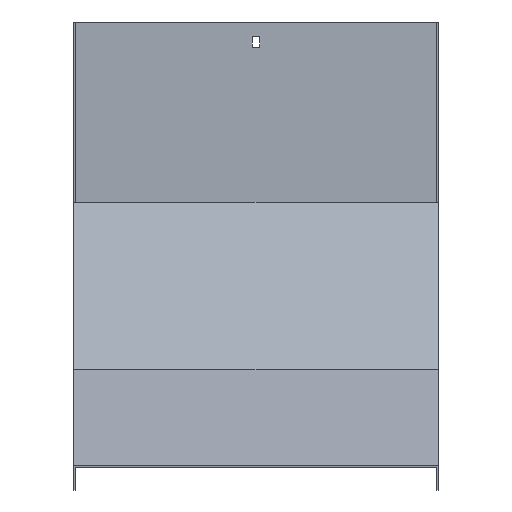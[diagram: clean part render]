
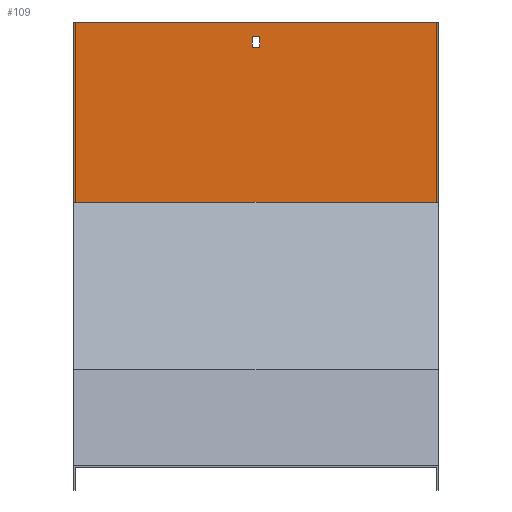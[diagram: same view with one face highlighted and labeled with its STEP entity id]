
A CAD part, top view. The second image highlights one B-rep face of the part: STEP entity #109.
In plain terms, the highlighted planar face has unit normal (0, 0, 1).
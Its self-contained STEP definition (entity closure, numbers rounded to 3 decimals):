
#5 = DIRECTION ( 'NONE',  ( 0., 1., 0. ) ) ;
#17 = DIRECTION ( 'NONE',  ( -1., 0., 0. ) ) ;
#22 = CARTESIAN_POINT ( 'NONE',  ( -3.25, 356.947, -368.947 ) ) ;
#24 = ORIENTED_EDGE ( 'NONE', *, *, #254, .T. ) ;
#30 = CARTESIAN_POINT ( 'NONE',  ( 151.5, 219.247, -368.947 ) ) ;
#48 = CARTESIAN_POINT ( 'NONE',  ( 3.25, 347.947, -368.947 ) ) ;
#52 = EDGE_CURVE ( 'NONE', #804, #163, #872, .T. ) ;
#77 = CARTESIAN_POINT ( 'NONE',  ( -3.25, 347.947, -368.947 ) ) ;
#92 = AXIS2_PLACEMENT_3D ( 'NONE', #571, #493, #802 ) ;
#94 = LINE ( 'NONE', #535, #779 ) ;
#108 = VERTEX_POINT ( 'NONE', #30 ) ;
#109 = ADVANCED_FACE ( 'NONE', ( #490, #111 ), #797, .T. ) ;
#111 = FACE_OUTER_BOUND ( 'NONE', #595, .T. ) ;
#139 = VECTOR ( 'NONE', #17, 1000. ) ;
#155 = VECTOR ( 'NONE', #946, 1000. ) ;
#163 = VERTEX_POINT ( 'NONE', #667 ) ;
#207 = VECTOR ( 'NONE', #901, 1000. ) ;
#247 = DIRECTION ( 'NONE',  ( -1., 0., 0. ) ) ;
#254 = EDGE_CURVE ( 'NONE', #108, #330, #366, .T. ) ;
#292 = EDGE_CURVE ( 'NONE', #330, #963, #713, .T. ) ;
#293 = CARTESIAN_POINT ( 'NONE',  ( 151.5, 219.247, -368.947 ) ) ;
#300 = CARTESIAN_POINT ( 'NONE',  ( 3.25, 347.947, -368.947 ) ) ;
#305 = CARTESIAN_POINT ( 'NONE',  ( 3.25, 347.947, -368.947 ) ) ;
#314 = VERTEX_POINT ( 'NONE', #22 ) ;
#323 = EDGE_CURVE ( 'NONE', #108, #481, #701, .T. ) ;
#330 = VERTEX_POINT ( 'NONE', #473 ) ;
#360 = EDGE_CURVE ( 'NONE', #314, #617, #94, .T. ) ;
#366 = LINE ( 'NONE', #293, #207 ) ;
#384 = LINE ( 'NONE', #696, #928 ) ;
#398 = DIRECTION ( 'NONE',  ( 1., 0., 0. ) ) ;
#433 = VECTOR ( 'NONE', #398, 1000. ) ;
#464 = ORIENTED_EDGE ( 'NONE', *, *, #678, .F. ) ;
#473 = CARTESIAN_POINT ( 'NONE',  ( 151.5, 368.947, -368.947 ) ) ;
#481 = VERTEX_POINT ( 'NONE', #489 ) ;
#487 = ORIENTED_EDGE ( 'NONE', *, *, #52, .F. ) ;
#489 = CARTESIAN_POINT ( 'NONE',  ( -151.5, 219.247, -368.947 ) ) ;
#490 = FACE_BOUND ( 'NONE', #654, .T. ) ;
#493 = DIRECTION ( 'NONE',  ( 0., 0., 1. ) ) ;
#514 = ORIENTED_EDGE ( 'NONE', *, *, #878, .F. ) ;
#517 = DIRECTION ( 'NONE',  ( -1., 0., 0. ) ) ;
#535 = CARTESIAN_POINT ( 'NONE',  ( -3.25, 347.947, -368.947 ) ) ;
#547 = CARTESIAN_POINT ( 'NONE',  ( -151.5, 368.947, -368.947 ) ) ;
#550 = ORIENTED_EDGE ( 'NONE', *, *, #618, .F. ) ;
#571 = CARTESIAN_POINT ( 'NONE',  ( 151.5, 219.247, -368.947 ) ) ;
#582 = VECTOR ( 'NONE', #517, 1000. ) ;
#595 = EDGE_LOOP ( 'NONE', ( #550, #740, #24, #731 ) ) ;
#617 = VERTEX_POINT ( 'NONE', #77 ) ;
#618 = EDGE_CURVE ( 'NONE', #481, #963, #384, .T. ) ;
#654 = EDGE_LOOP ( 'NONE', ( #487, #514, #873, #464 ) ) ;
#667 = CARTESIAN_POINT ( 'NONE',  ( 3.25, 356.947, -368.947 ) ) ;
#678 = EDGE_CURVE ( 'NONE', #163, #314, #829, .T. ) ;
#683 = LINE ( 'NONE', #300, #433 ) ;
#696 = CARTESIAN_POINT ( 'NONE',  ( -151.5, 219.247, -368.947 ) ) ;
#701 = LINE ( 'NONE', #917, #828 ) ;
#713 = LINE ( 'NONE', #935, #139 ) ;
#731 = ORIENTED_EDGE ( 'NONE', *, *, #292, .T. ) ;
#740 = ORIENTED_EDGE ( 'NONE', *, *, #323, .F. ) ;
#741 = CARTESIAN_POINT ( 'NONE',  ( 3.25, 356.947, -368.947 ) ) ;
#779 = VECTOR ( 'NONE', #862, 1000. ) ;
#797 = PLANE ( 'NONE',  #92 ) ;
#802 = DIRECTION ( 'NONE',  ( 0., -1., 0. ) ) ;
#804 = VERTEX_POINT ( 'NONE', #305 ) ;
#828 = VECTOR ( 'NONE', #247, 1000. ) ;
#829 = LINE ( 'NONE', #741, #582 ) ;
#862 = DIRECTION ( 'NONE',  ( 0., -1., 0. ) ) ;
#872 = LINE ( 'NONE', #48, #155 ) ;
#873 = ORIENTED_EDGE ( 'NONE', *, *, #360, .F. ) ;
#878 = EDGE_CURVE ( 'NONE', #617, #804, #683, .T. ) ;
#901 = DIRECTION ( 'NONE',  ( 0., 1., 0. ) ) ;
#917 = CARTESIAN_POINT ( 'NONE',  ( 151.5, 219.247, -368.947 ) ) ;
#928 = VECTOR ( 'NONE', #5, 1000. ) ;
#935 = CARTESIAN_POINT ( 'NONE',  ( 151.5, 368.947, -368.947 ) ) ;
#946 = DIRECTION ( 'NONE',  ( 0., 1., 0. ) ) ;
#963 = VERTEX_POINT ( 'NONE', #547 ) ;
